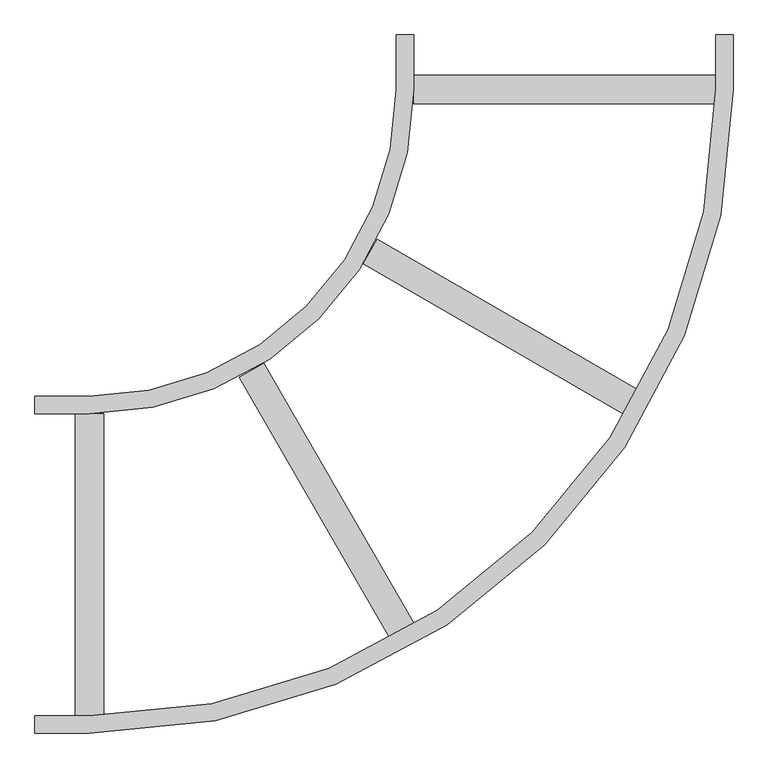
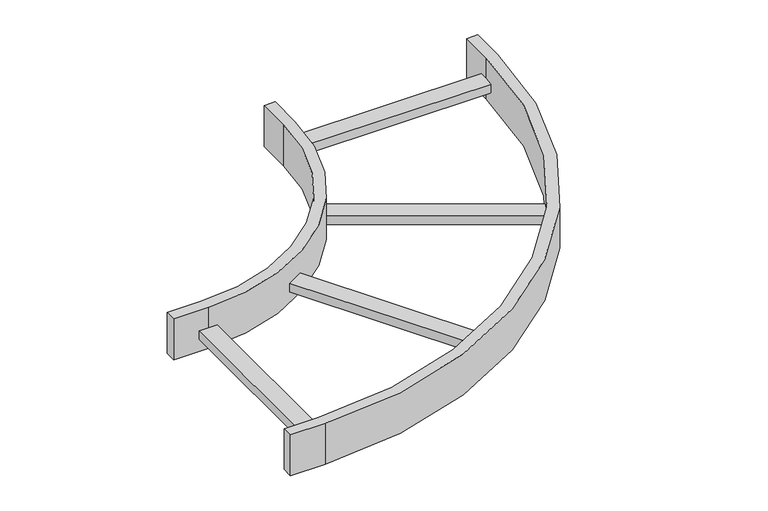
"""IFC4 building model written with IfcOpenShell, lengths in millimetres: cable carrier fitting geometry, Legrand_CableLadder_Swifts_Topaz_FlatBend-13 : Hot Dip Galvanised (after manufacture)."""

import ifcopenshell
import ifcopenshell.guid

model = None  # the IFC model being written
_history = None  # IfcOwnerHistory: only IFC2X3 demands one
_inside = {}  # id of a spatial element -> (the spatial element, [elements in it])
_under = {}  # id of a project, library or spatial element -> (it, [spatial elements below it])
_declared = {}  # id of a project -> (the project, [libraries it declares])
_typed = {}  # id of a type object -> (the type object, [elements of that type])
_made_of = {}  # id of a material, layer set ... -> (it, [elements and type objects made of it])


def new_model(schema):
    """Start an empty IFC model of exactly this schema.

    Asked for "IFC4X3", IfcOpenShell would pick the latest addendum, in which some entities
    have other attributes; the version numbers below select the first issue.
    IFC2X3 requires an IfcOwnerHistory on every rooted entity: one is made here for all.
    """
    global model, _history
    if schema == "IFC4X3":
        model = ifcopenshell.file(schema_version=(4, 3, 0, 0))
    else:
        model = ifcopenshell.file(schema=schema)
    _inside.clear()
    _under.clear()
    _declared.clear()
    _typed.clear()
    _made_of.clear()
    _history = None
    if model.schema == "IFC2X3":
        org = make("IfcOrganization", Name="unknown")
        user = make(
            "IfcPersonAndOrganization",
            ThePerson=make("IfcPerson", FamilyName="unknown"),
            TheOrganization=org,
        )
        app = make(
            "IfcApplication",
            ApplicationDeveloper=org,
            Version="unknown",
            ApplicationFullName="unknown",
            ApplicationIdentifier="unknown",
        )
        _history = make(
            "IfcOwnerHistory",
            OwningUser=user,
            OwningApplication=app,
            ChangeAction="ADDED",
            CreationDate=0,
        )
    return model


def make(cls, **values):
    """One entity of the class cls with the attributes given. An attribute that is None is left unset."""
    return model.create_entity(
        cls, **{name: value for name, value in values.items() if value is not None}
    )


def rooted(cls, **values):
    """An entity with a GlobalId (a new one), such as an element, a storey or a relation."""
    return make(cls, GlobalId=ifcopenshell.guid.new(), OwnerHistory=_history, **values)


def si_unit(unit_type, name, prefix=None):
    """IfcSIUnit, for example si_unit("LENGTHUNIT", "METRE", prefix="MILLI")."""
    return make("IfcSIUnit", UnitType=unit_type, Prefix=prefix, Name=name)


def assignment(units):
    """IfcUnitAssignment: the units of a project."""
    return None if units is None else make("IfcUnitAssignment", Units=units)


def point(xyz):
    """IfcCartesianPoint."""
    return None if xyz is None else make("IfcCartesianPoint", Coordinates=xyz)


def direction(xyz):
    """IfcDirection."""
    return None if xyz is None else make("IfcDirection", DirectionRatios=xyz)


def frame(location, z_axis=None, x_axis=None):
    """IfcAxis2Placement3D, a coordinate frame: its origin and axes. An axis left out is left unset."""
    return make(
        "IfcAxis2Placement3D",
        Location=point(location),
        Axis=direction(z_axis),
        RefDirection=direction(x_axis),
    )


def frame_2d(location, x_axis=None):
    """IfcAxis2Placement2D, a coordinate frame in the plane: its origin and x axis."""
    return make(
        "IfcAxis2Placement2D", Location=point(location), RefDirection=direction(x_axis)
    )


def origin():
    """The frame at (0, 0, 0) with its axes left unset."""
    return frame((0.0, 0.0, 0.0))


def place(relative_to, where):
    """IfcLocalPlacement: puts the frame where relative to a parent placement (None: the world)."""
    return make(
        "IfcLocalPlacement", PlacementRelTo=relative_to, RelativePlacement=where
    )


def context(
    kind, dimensions, precision=None, world=None, true_north=None, identifier=None
):
    """IfcGeometricRepresentationContext, for example the 3D "Model" context."""
    return make(
        "IfcGeometricRepresentationContext",
        ContextIdentifier=identifier,
        ContextType=kind,
        CoordinateSpaceDimension=dimensions,
        Precision=precision,
        WorldCoordinateSystem=world,
        TrueNorth=true_north,
    )


def project(units=None, contexts=None):
    """IfcProject with its units and contexts."""
    return rooted(
        "IfcProject",
        Name="project",
        RepresentationContexts=contexts,
        UnitsInContext=assignment(units),
    )


def spatial(cls, under=None, at=None, **own):
    """A site, building, storey or space (cls), placed at a placement, below another one or the project."""
    s = rooted(cls, ObjectPlacement=at, **own)
    if under is not None:
        _under.setdefault(under.id(), (under, []))[1].append(s)
    return s


def polyline(points):
    """IfcPolyline through the points."""
    return make("IfcPolyline", Points=[point(p) for p in points])


def circle_curve(where, radius):
    """IfcCircle in the frame where."""
    return make("IfcCircle", Position=where, Radius=radius)


def trimmed(basis, trim1, trim2, sense, master):
    """IfcTrimmedCurve: the piece of a basis curve between two trims."""
    return make(
        "IfcTrimmedCurve",
        BasisCurve=basis,
        Trim1=trim1,
        Trim2=trim2,
        SenseAgreement=sense,
        MasterRepresentation=master,
    )


def segment(curve, same_sense, transition):
    """IfcCompositeCurveSegment."""
    return make(
        "IfcCompositeCurveSegment",
        Transition=transition,
        SameSense=same_sense,
        ParentCurve=curve,
    )


def composite_curve(segments, self_intersect=None):
    """IfcCompositeCurve: segments joined end to end."""
    return make("IfcCompositeCurve", Segments=segments, SelfIntersect=self_intersect)


def outline(outer, holes=None, kind="AREA"):
    """IfcArbitraryClosedProfileDef: a profile drawn as a closed curve; with holes, ...WithVoids."""
    if holes is None:
        return make("IfcArbitraryClosedProfileDef", ProfileType=kind, OuterCurve=outer)
    return make(
        "IfcArbitraryProfileDefWithVoids",
        ProfileType=kind,
        OuterCurve=outer,
        InnerCurves=holes,
    )


def extrude(swept, where, along, depth):
    """IfcExtrudedAreaSolid: the profile swept, set in the frame where, extruded along a direction by depth."""
    return make(
        "IfcExtrudedAreaSolid",
        SweptArea=swept,
        Position=where,
        ExtrudedDirection=direction(along),
        Depth=depth,
    )


def shape(context_of_items, identifier, shape_type, items):
    """IfcShapeRepresentation: the items that make up one representation, for example the "Body"."""
    return make(
        "IfcShapeRepresentation",
        ContextOfItems=context_of_items,
        RepresentationIdentifier=identifier,
        RepresentationType=shape_type,
        Items=items,
    )


def source(mapping_origin, context_of_items, identifier, shape_type, items):
    """IfcRepresentationMap: a shape defined once, which mapped items show again and again."""
    return make(
        "IfcRepresentationMap",
        MappingOrigin=mapping_origin,
        MappedRepresentation=shape(context_of_items, identifier, shape_type, items),
    )


def transform(
    local_origin,
    x_axis=None,
    y_axis=None,
    z_axis=None,
    scale=None,
    scale2=None,
    scale3=None,
    uniform=True,
):
    """IfcCartesianTransformationOperator3D, or its non-uniform kind. x_axis, y_axis, z_axis: its Axis1, 2, 3."""
    if uniform:
        return make(
            "IfcCartesianTransformationOperator3D",
            Axis1=direction(x_axis),
            Axis2=direction(y_axis),
            LocalOrigin=point(local_origin),
            Scale=scale,
            Axis3=direction(z_axis),
        )
    return make(
        "IfcCartesianTransformationOperator3DnonUniform",
        Axis1=direction(x_axis),
        Axis2=direction(y_axis),
        LocalOrigin=point(local_origin),
        Scale=scale,
        Axis3=direction(z_axis),
        Scale2=scale2,
        Scale3=scale3,
    )


def mapped(mapping_source, mapping_target):
    """IfcMappedItem: shows the shape of a source again, moved by a transform."""
    return make(
        "IfcMappedItem", MappingSource=mapping_source, MappingTarget=mapping_target
    )


def made_of(thing, what):
    """Note that an element or type object is made of a material, layer set ...; save() writes the relation."""
    if what is not None:
        _made_of.setdefault(what.id(), (what, []))[1].append(thing)
    return thing


def element(
    cls,
    number,
    at=None,
    inside=None,
    cuts=None,
    type_object=None,
    material=None,
    context=None,
    identifier="Body",
    shape_type=None,
    held_by="IfcProductDefinitionShape",
    body=None,
    shapes=None,
    **own,
):
    """One element of the class cls, such as IfcWall. Its Tag is "e" and its number.

    at: its placement. inside: the storey or other place that contains it. cuts: it is an
    opening in that element (IfcRelVoidsElement). A single representation is given by context,
    identifier, shape_type and body (its items); several are given by shapes. held_by: the class
    of the entity that holds the representations. save() writes the other relations.
    """
    e = rooted(cls, Tag="e%d" % number, ObjectPlacement=at, **own)
    if body is not None:
        shapes = [shape(context, identifier, shape_type, body)]
    if shapes is not None:
        e.Representation = make(held_by, Representations=shapes)
    if inside is not None:
        _inside.setdefault(inside.id(), (inside, []))[1].append(e)
    if cuts is not None:
        rooted(
            "IfcRelVoidsElement", RelatingBuildingElement=cuts, RelatedOpeningElement=e
        )
    if type_object is not None:
        _typed.setdefault(type_object.id(), (type_object, []))[1].append(e)
    return made_of(e, material)


def aggregate(whole, parts):
    """IfcRelAggregates: a whole, such as a stair, and the parts it consists of."""
    return rooted("IfcRelAggregates", RelatingObject=whole, RelatedObjects=parts)


def save(model, path):
    """Write the relations noted so far, then the file.

    IfcRelAggregates (storeys below a building ...), IfcRelContainedInSpatialStructure (elements
    in a storey), IfcRelDefinesByType, IfcRelAssociatesMaterial and IfcRelDeclares: one each for
    every whole, place, type object, material and project.
    """
    for whole, parts in _under.values():
        aggregate(whole, parts)
    for where, things in _inside.values():
        rooted(
            "IfcRelContainedInSpatialStructure",
            RelatedElements=things,
            RelatingStructure=where,
        )
    for kind, things in _typed.values():
        rooted("IfcRelDefinesByType", RelatedObjects=things, RelatingType=kind)
    for what, things in _made_of.values():
        rooted("IfcRelAssociatesMaterial", RelatedObjects=things, RelatingMaterial=what)
    for by, libraries in _declared.values():
        rooted("IfcRelDeclares", RelatingContext=by, RelatedDefinitions=libraries)
    model.write(path)


def cable_carrier_fitting_bc066015(model_context):
    return source(origin(), model_context, "Body", "SweptSolid", [
        extrude(outline(polyline([(-255.9365335, -108.9443334), (-477.4365335, 274.7049205), (-441.0634665, 295.7049205), (-219.5634665, -87.9443334), (-255.9365335, -108.9443334)])), frame((0.0, 0.0, -21.0), z_axis=(0.0, 0.0, 1.0), x_axis=(1.0, 0.0, 0.0)), (0.0, 0.0, 1.0), 21.0),
        extrude(outline(polyline([(87.9443334, 219.5634665), (-295.7049205, 441.0634665), (-274.7049205, 477.4365335), (108.9443334, 255.9365335), (87.9443334, 219.5634665)])), frame((0.0, 0.0, -21.0), z_axis=(0.0, 0.0, 1.0), x_axis=(1.0, 0.0, 0.0)), (0.0, 0.0, 1.0), 21.0),
        extrude(outline(polyline([(-718.0, -221.5), (-718.0, 221.5), (-676.0, 221.5), (-676.0, -221.5), (-718.0, -221.5)])), frame((0.0, 0.0, -21.0), z_axis=(0.0, 0.0, 1.0), x_axis=(1.0, 0.0, 0.0)), (0.0, 0.0, 1.0), 21.0),
        extrude(outline(polyline([(221.5, 676.0), (-221.5, 676.0), (-221.5, 718.0), (221.5, 718.0), (221.5, 676.0)])), frame((0.0, 0.0, -21.0), z_axis=(0.0, 0.0, 1.0), x_axis=(1.0, 0.0, 0.0)), (0.0, 0.0, 1.0), 21.0),
        extrude(outline(composite_curve([segment(polyline([(-777.0, -247.0), (-777.0, -221.5), (-697.0, -221.5)]), True, "CONTINUOUS"), segment(trimmed(circle_curve(frame_2d((-697.0, 697.0)), 918.5), [point((-697.0, -221.5))], [point((221.5, 697.0))], True, "CARTESIAN"), True, "CONTINUOUS"), segment(polyline([(221.5, 697.0), (221.5, 777.0), (247.0, 777.0), (247.0, 697.0)]), True, "CONTINUOUS"), segment(trimmed(circle_curve(frame_2d((-697.0, 697.0)), 944.0), [point((247.0, 697.0))], [point((-697.0, -247.0))], False, "CARTESIAN"), True, "CONTINUOUS"), segment(polyline([(-697.0, -247.0), (-777.0, -247.0)]), True, "CONTINUOUS")], self_intersect=False)), frame((0.0, 0.0, -50.0), z_axis=(0.0, 0.0, 1.0), x_axis=(1.0, 0.0, 0.0)), (0.0, 0.0, 1.0), 100.0),
        extrude(outline(composite_curve([segment(polyline([(-777.0, 221.5), (-777.0, 247.0), (-697.0, 247.0)]), True, "CONTINUOUS"), segment(trimmed(circle_curve(frame_2d((-697.0, 697.0)), 450.0), [point((-697.0, 247.0))], [point((-247.0, 697.0))], True, "CARTESIAN"), True, "CONTINUOUS"), segment(polyline([(-247.0, 697.0), (-247.0, 777.0), (-221.5, 777.0), (-221.5, 697.0)]), True, "CONTINUOUS"), segment(trimmed(circle_curve(frame_2d((-697.0, 697.0)), 475.5), [point((-221.5, 697.0))], [point((-697.0, 221.5))], False, "CARTESIAN"), True, "CONTINUOUS"), segment(polyline([(-697.0, 221.5), (-777.0, 221.5)]), True, "CONTINUOUS")], self_intersect=False)), frame((0.0, 0.0, -50.0), z_axis=(0.0, 0.0, 1.0), x_axis=(1.0, 0.0, 0.0)), (0.0, 0.0, 1.0), 100.0),
    ])


if __name__ == "__main__":
    model = new_model("IFC4")
    model_context = context("Model", 3, world=origin())
    ifc_project = project(units=[si_unit("LENGTHUNIT", "METRE", prefix="MILLI")], contexts=[model_context])
    site = spatial("IfcSite", under=ifc_project)
    building = spatial("IfcBuilding", under=site)
    placement = place(None, origin())
    cable_carrier_fitting_shape = cable_carrier_fitting_bc066015(model_context)
    element("IfcCableCarrierFitting", 1, ObjectType="Legrand_CableLadder_Swifts_Topaz_FlatBend-13 : Hot Dip Galvanised (after manufacture)", at=placement, inside=building, context=model_context, shape_type="MappedRepresentation", body=[
        mapped(cable_carrier_fitting_shape, transform((0.0, 0.0, 0.0), x_axis=(1.0, 0.0, 0.0), y_axis=(0.0, 1.0, 0.0), z_axis=(0.0, 0.0, 1.0))),
    ])
    save(model, "model.ifc")
